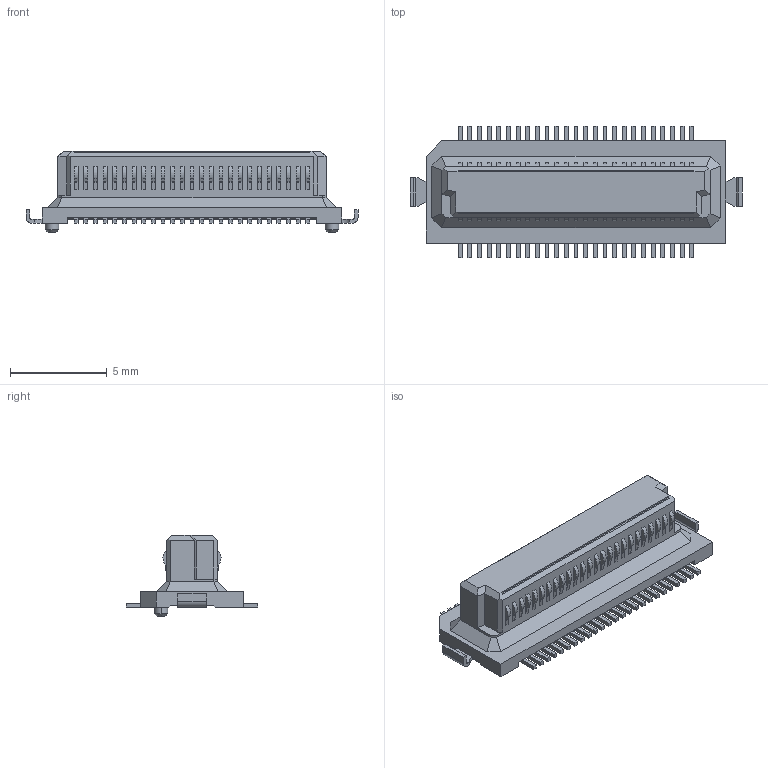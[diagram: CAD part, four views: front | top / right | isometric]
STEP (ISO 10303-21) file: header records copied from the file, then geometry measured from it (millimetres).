
FILE_DESCRIPTION(('Creo Elements/Direct Modeling STEP Export'),'2;1');
FILE_NAME('修正　P3A288_DY11-050S-1.stp','2020-01-16T15:03:30',(''),(''),'Creo Elements/Direct Modeling STEP processor for AP214 (Solid Model)','Creo Elements/Direct Modeling 19.0F 14-Feb-2017 (C) Parametric Technology GmbH','');
FILE_SCHEMA(('AUTOMOTIVE_DESIGN { 1 0 10303 214 1 1 1 1 }'));
Length unit declared in the file: millimetre
Products named in the file (2): p1; DY11-050S-1.1
Bounding box: 17.2 x 6.8 x 4.23 mm (x, y, z)
Volume: 160.7 mm3; surface area: 352.1 mm2
Topology: 1 solids, 1 shells, 910 faces, 2391 edges, 1586 vertices
Faces by surface type: plane 642, cylinder 264, cone 4
Entity records: 27946 total; most frequent: CARTESIAN_POINT 4882, ORIENTED_EDGE 4782, DIRECTION 4737, EDGE_CURVE 2391, VECTOR 1855, LINE 1855, VERTEX_POINT 1586, AXIS2_PLACEMENT_3D 1441
